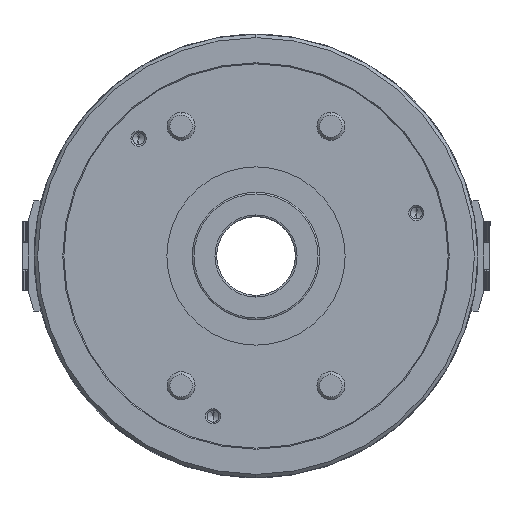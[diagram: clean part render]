
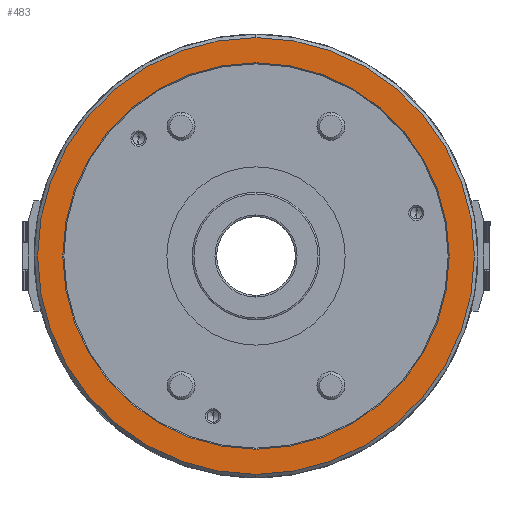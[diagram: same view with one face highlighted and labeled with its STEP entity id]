
A CAD part, left-side view. The second image highlights one B-rep face of the part: STEP entity #483.
In plain terms, the highlighted planar face has unit normal (-1, 0, 0) as drawn and (0, 0, -1) by its records, which use the part's own axes.
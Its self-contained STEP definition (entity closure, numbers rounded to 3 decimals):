
#10 = AXIS2_PLACEMENT_3D ( 'NONE', #7491, #34436, #11358 ) ;
#483 = ADVANCED_FACE ( 'NONE', ( #46423, #18154 ), #35826, .F. ) ;
#925 = EDGE_LOOP ( 'NONE', ( #25309, #39305 ) ) ;
#2910 = CARTESIAN_POINT ( 'NONE',  ( -110.6, 0., -117. ) ) ;
#3728 = CARTESIAN_POINT ( 'NONE',  ( 110.6, 0., -117. ) ) ;
#6044 = CIRCLE ( 'NONE', #36198, 125. ) ;
#7491 = CARTESIAN_POINT ( 'NONE',  ( 0., 0., -117. ) ) ;
#7977 = CARTESIAN_POINT ( 'NONE',  ( 125., 0., -117. ) ) ;
#8821 = CARTESIAN_POINT ( 'NONE',  ( -125., 0., -117. ) ) ;
#9015 = AXIS2_PLACEMENT_3D ( 'NONE', #20519, #47409, #24391 ) ;
#11223 = EDGE_CURVE ( 'NONE', #12609, #26760, #19727, .T. ) ;
#11358 = DIRECTION ( 'NONE',  ( 1., 0., 0. ) ) ;
#11833 = DIRECTION ( 'NONE',  ( 0., 0., 1. ) ) ;
#12153 = CARTESIAN_POINT ( 'NONE',  ( 0., 0., -117. ) ) ;
#12609 = VERTEX_POINT ( 'NONE', #2910 ) ;
#14861 = VERTEX_POINT ( 'NONE', #7977 ) ;
#15124 = CARTESIAN_POINT ( 'NONE',  ( 0., 0., -117. ) ) ;
#16027 = DIRECTION ( 'NONE',  ( 1., 0., 0. ) ) ;
#16539 = EDGE_CURVE ( 'NONE', #34007, #14861, #32799, .T. ) ;
#18154 = FACE_BOUND ( 'NONE', #27653, .T. ) ;
#19017 = DIRECTION ( 'NONE',  ( 1., 0., 0. ) ) ;
#19727 = CIRCLE ( 'NONE', #24181, 110.6 ) ;
#20519 = CARTESIAN_POINT ( 'NONE',  ( 0., -110.6, -117. ) ) ;
#22416 = AXIS2_PLACEMENT_3D ( 'NONE', #12153, #39085, #16027 ) ;
#24181 = AXIS2_PLACEMENT_3D ( 'NONE', #15124, #42038, #19017 ) ;
#24391 = DIRECTION ( 'NONE',  ( 1., 0., 0. ) ) ;
#25309 = ORIENTED_EDGE ( 'NONE', *, *, #39539, .F. ) ;
#26760 = VERTEX_POINT ( 'NONE', #3728 ) ;
#27653 = EDGE_LOOP ( 'NONE', ( #48958, #41517 ) ) ;
#32799 = CIRCLE ( 'NONE', #22416, 125. ) ;
#33793 = EDGE_CURVE ( 'NONE', #26760, #12609, #42715, .T. ) ;
#34007 = VERTEX_POINT ( 'NONE', #8821 ) ;
#34436 = DIRECTION ( 'NONE',  ( 0., 0., 1. ) ) ;
#34901 = CARTESIAN_POINT ( 'NONE',  ( 0., 0., -117. ) ) ;
#35826 = PLANE ( 'NONE',  #9015 ) ;
#36198 = AXIS2_PLACEMENT_3D ( 'NONE', #34901, #11833, #38764 ) ;
#38764 = DIRECTION ( 'NONE',  ( 1., 0., 0. ) ) ;
#39085 = DIRECTION ( 'NONE',  ( 0., 0., 1. ) ) ;
#39305 = ORIENTED_EDGE ( 'NONE', *, *, #16539, .F. ) ;
#39539 = EDGE_CURVE ( 'NONE', #14861, #34007, #6044, .T. ) ;
#41517 = ORIENTED_EDGE ( 'NONE', *, *, #33793, .T. ) ;
#42038 = DIRECTION ( 'NONE',  ( 0., 0., 1. ) ) ;
#42715 = CIRCLE ( 'NONE', #10, 110.6 ) ;
#46423 = FACE_OUTER_BOUND ( 'NONE', #925, .T. ) ;
#47409 = DIRECTION ( 'NONE',  ( 0., 0., 1. ) ) ;
#48958 = ORIENTED_EDGE ( 'NONE', *, *, #11223, .T. ) ;
